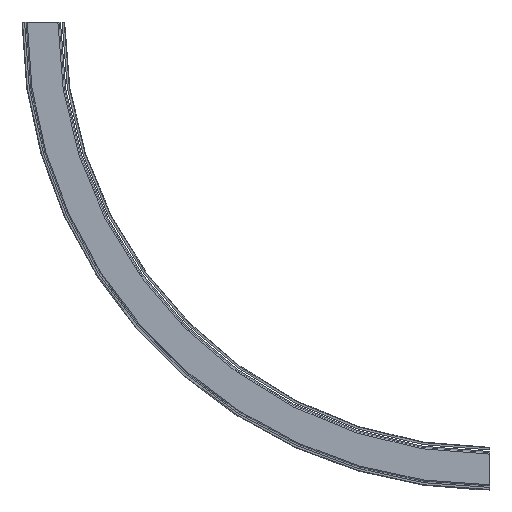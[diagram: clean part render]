
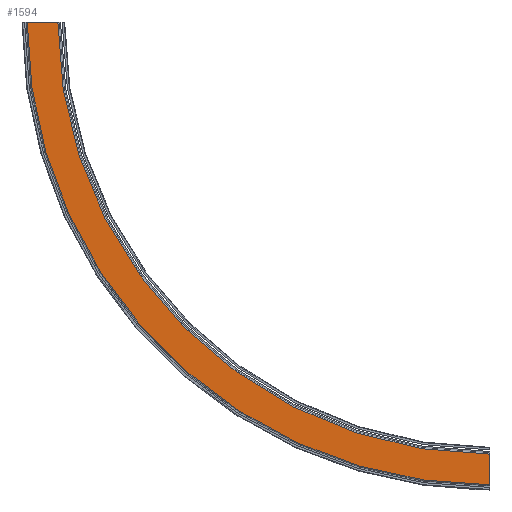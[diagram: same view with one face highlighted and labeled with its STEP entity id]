
A CAD part, left-side view. The second image highlights one B-rep face of the part: STEP entity #1594.
In plain terms, the highlighted planar face has unit normal (-1, 0, 0).
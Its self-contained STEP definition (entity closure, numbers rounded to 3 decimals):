
#181=FACE_OUTER_BOUND('',#273,.T.);
#273=EDGE_LOOP('',(#1332,#1333,#1334,#1335));
#311=CIRCLE('',#1689,889.5);
#342=CIRCLE('',#1746,830.5);
#458=LINE('',#7268,#584);
#459=LINE('',#7269,#585);
#584=VECTOR('',#2110,10.);
#585=VECTOR('',#2111,10.);
#691=VERTEX_POINT('',#7109);
#692=VERTEX_POINT('',#7111);
#742=VERTEX_POINT('',#7262);
#743=VERTEX_POINT('',#7264);
#885=EDGE_CURVE('',#691,#692,#311,.T.);
#962=EDGE_CURVE('',#742,#743,#342,.T.);
#963=EDGE_CURVE('',#691,#742,#458,.T.);
#964=EDGE_CURVE('',#692,#743,#459,.T.);
#1332=ORIENTED_EDGE('',*,*,#963,.T.);
#1333=ORIENTED_EDGE('',*,*,#962,.T.);
#1334=ORIENTED_EDGE('',*,*,#964,.F.);
#1335=ORIENTED_EDGE('',*,*,#885,.F.);
#1495=PLANE('',#1747);
#1594=ADVANCED_FACE('',(#181),#1495,.T.);
#1689=AXIS2_PLACEMENT_3D('',#7112,#1946,#1947);
#1746=AXIS2_PLACEMENT_3D('',#7266,#2106,#2107);
#1747=AXIS2_PLACEMENT_3D('',#7267,#2108,#2109);
#1946=DIRECTION('center_axis',(1.,0.,0.));
#1947=DIRECTION('ref_axis',(0.,0.,-1.));
#2106=DIRECTION('center_axis',(1.,0.,0.));
#2107=DIRECTION('ref_axis',(0.,0.,-1.));
#2108=DIRECTION('center_axis',(-1.,0.,0.));
#2109=DIRECTION('ref_axis',(0.,0.,1.));
#2110=DIRECTION('',(0.,0.,1.));
#2111=DIRECTION('',(0.,-1.,0.));
#7109=CARTESIAN_POINT('',(-43.,0.,-29.5));
#7111=CARTESIAN_POINT('',(-43.,889.5,860.));
#7112=CARTESIAN_POINT('Origin',(-43.,0.,860.));
#7262=CARTESIAN_POINT('',(-43.,0.,29.5));
#7264=CARTESIAN_POINT('',(-43.,830.5,860.));
#7266=CARTESIAN_POINT('Origin',(-43.,0.,860.));
#7267=CARTESIAN_POINT('Origin',(-43.,0.,-5.5));
#7268=CARTESIAN_POINT('',(-43.,0.,-29.5));
#7269=CARTESIAN_POINT('',(-43.,889.5,860.));
